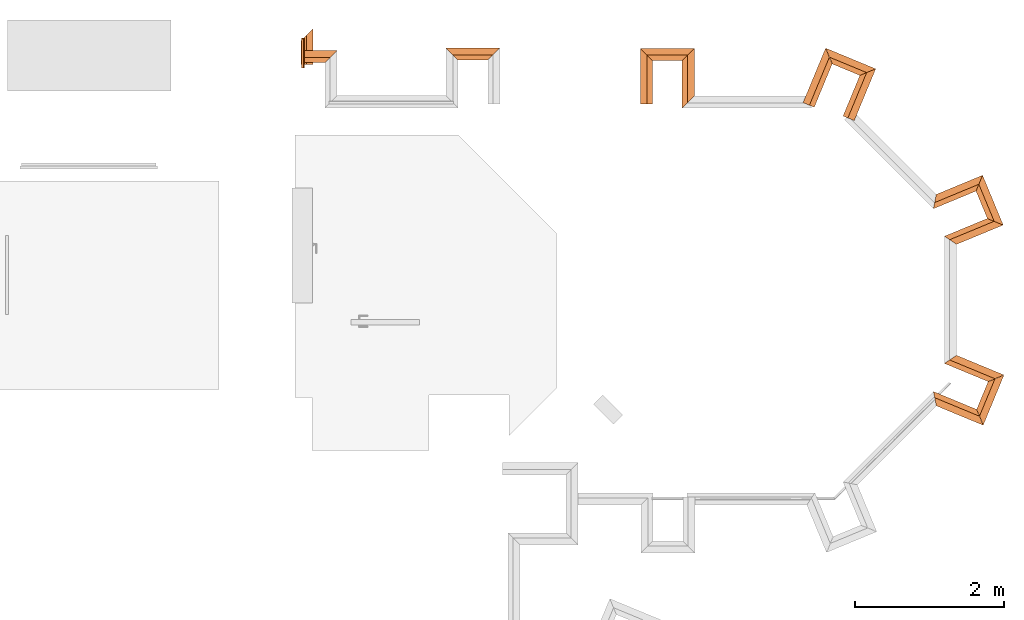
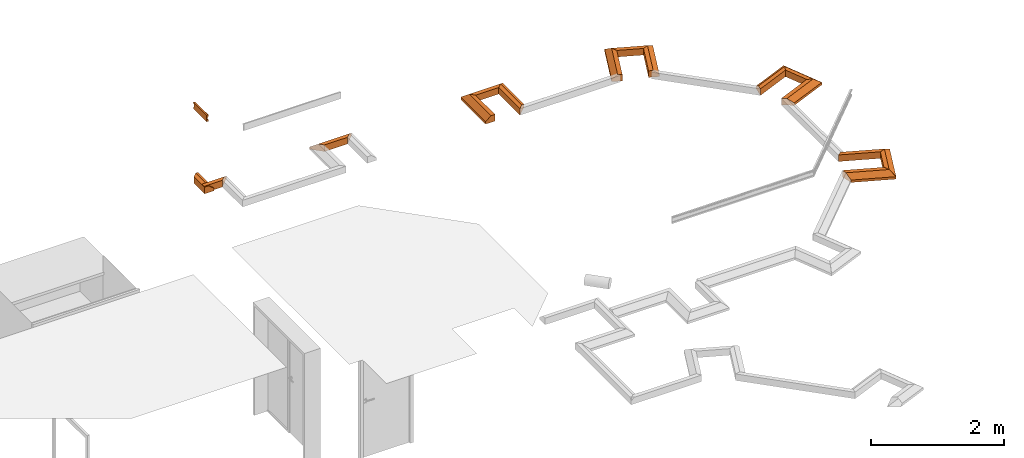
# One storey, part 9 of 9: 16 proxies.
"""IFC2X3 building model written with IfcOpenShell, lengths in metres."""

from ifc_helpers import new_model, entity, si_unit, converted_unit, derived_unit, direction, frame, origin, place, context, subcontext, project, spatial, faceted_brep, type_object, element, save


model = new_model("IFC2X3")

# Units and contexts
model_context = context("Model", 3, precision=1e-05, world=origin(), true_north=direction((6.12303176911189e-17, 1.0)))
plan_context = context("Plan", 3, precision=1e-05, world=origin(), true_north=direction((6.12303176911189e-17, 1.0)))
body_context = subcontext(model_context, "Body", "Model", "MODEL_VIEW")
ifc_project = project(units=[si_unit("LENGTHUNIT", "METRE"), si_unit("AREAUNIT", "SQUARE_METRE"), si_unit("VOLUMEUNIT", "CUBIC_METRE"), converted_unit("PLANEANGLEUNIT", "DEGREE", entity("IfcRatioMeasure", 0.0174532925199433), si_unit("PLANEANGLEUNIT", "RADIAN"), dimensions=[0, 0, 0, 0, 0, 0, 0]), si_unit("MASSUNIT", "GRAM", prefix="KILO"), derived_unit("MASSDENSITYUNIT", [(si_unit("MASSUNIT", "GRAM", prefix="KILO"), 1), (si_unit("LENGTHUNIT", "METRE"), -3)]), derived_unit("MOMENTOFINERTIAUNIT", [(si_unit("LENGTHUNIT", "METRE"), 4)]), si_unit("TIMEUNIT", "SECOND"), si_unit("FREQUENCYUNIT", "HERTZ"), si_unit("THERMODYNAMICTEMPERATUREUNIT", "DEGREE_CELSIUS"), derived_unit("THERMALTRANSMITTANCEUNIT", [(si_unit("MASSUNIT", "GRAM", prefix="KILO"), 1), (si_unit("THERMODYNAMICTEMPERATUREUNIT", "KELVIN"), -1), (si_unit("TIMEUNIT", "SECOND"), -3)]), derived_unit("VOLUMETRICFLOWRATEUNIT", [(si_unit("LENGTHUNIT", "METRE"), 3), (si_unit("TIMEUNIT", "SECOND"), -1)]), derived_unit("MASSFLOWRATEUNIT", [(si_unit("MASSUNIT", "GRAM", prefix="KILO"), 1), (si_unit("TIMEUNIT", "SECOND"), -1)]), derived_unit("ROTATIONALFREQUENCYUNIT", [(si_unit("TIMEUNIT", "SECOND"), -1)]), si_unit("ELECTRICCURRENTUNIT", "AMPERE"), si_unit("ELECTRICVOLTAGEUNIT", "VOLT"), si_unit("POWERUNIT", "WATT"), si_unit("FORCEUNIT", "NEWTON", prefix="KILO"), si_unit("ILLUMINANCEUNIT", "LUX"), si_unit("LUMINOUSFLUXUNIT", "LUMEN"), si_unit("LUMINOUSINTENSITYUNIT", "CANDELA"), derived_unit("USERDEFINED", [(si_unit("MASSUNIT", "GRAM", prefix="KILO"), -1), (si_unit("LENGTHUNIT", "METRE"), -2), (si_unit("TIMEUNIT", "SECOND"), 3), (si_unit("LUMINOUSFLUXUNIT", "LUMEN"), 1)]), derived_unit("SOUNDPOWERUNIT", [(si_unit("MASSUNIT", "GRAM", prefix="KILO"), 1), (si_unit("LENGTHUNIT", "METRE"), 2), (si_unit("TIMEUNIT", "SECOND"), -3)]), derived_unit("SOUNDPRESSUREUNIT", [(si_unit("MASSUNIT", "GRAM", prefix="KILO"), 1), (si_unit("LENGTHUNIT", "METRE"), -1), (si_unit("TIMEUNIT", "SECOND"), -2)]), derived_unit("LINEARVELOCITYUNIT", [(si_unit("LENGTHUNIT", "METRE"), 1), (si_unit("TIMEUNIT", "SECOND"), -1)]), si_unit("PRESSUREUNIT", "PASCAL"), derived_unit("USERDEFINED", [(si_unit("LENGTHUNIT", "METRE"), -2), (si_unit("MASSUNIT", "GRAM", prefix="KILO"), 1), (si_unit("TIMEUNIT", "SECOND"), -2)]), derived_unit("LINEARFORCEUNIT", [(si_unit("MASSUNIT", "GRAM", prefix="KILO"), 1), (si_unit("LENGTHUNIT", "METRE"), 1), (si_unit("TIMEUNIT", "SECOND"), -2), (si_unit("LENGTHUNIT", "METRE"), -1)]), derived_unit("PLANARFORCEUNIT", [(si_unit("MASSUNIT", "GRAM", prefix="KILO"), 1), (si_unit("LENGTHUNIT", "METRE"), 1), (si_unit("TIMEUNIT", "SECOND"), -2), (si_unit("LENGTHUNIT", "METRE"), -2)])], contexts=[model_context, plan_context])

# Site, building, storey
site_placement = place(None, frame((-11.0823275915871, 23.8300534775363, 0.0)))
site = spatial("IfcSite", under=ifc_project, at=site_placement, Name="Default", CompositionType="ELEMENT")
building_placement = place(site_placement, origin())
building = spatial("IfcBuilding", under=site, at=building_placement, Name="Englische Kirche", CompositionType="ELEMENT")
storey_placement = place(building_placement, frame((0.0, 0.0, -3.07499999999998)))
storey = spatial("IfcBuildingStorey", under=building, at=storey_placement, Name="Ebene -1 Basement Phase 6", CompositionType="ELEMENT", Elevation=-3.07499999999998)

# Proxies
building_element_proxy_type_1 = type_object("IfcBuildingElementProxyType", Name="Profilierte Wand:plinth", PredefinedType="NOTDEFINED")
proxy_1_placement = place(storey_placement, frame((17.9534573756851, 15.7736618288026, 2.97999999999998)))
element("IfcBuildingElementProxy", 1, at=proxy_1_placement, inside=storey, type_object=building_element_proxy_type_1, Name="Profilierte Wand:plinth", ObjectType="Profilierte Wand:plinth", context=body_context, shape_type="Brep", body=[
    faceted_brep([(0.0, 0.0, 0.12), (0.0, 0.0, 0.0), (0.16266972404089, 0.0, 0.0), (0.16266972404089, 0.0, 0.0450000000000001), (0.0697725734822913, 0.0, 0.12), (0.0, 0.320057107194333, 0.12), (0.0697725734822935, 0.389829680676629, 0.12), (0.16266972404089, 0.482726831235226, 0.0450000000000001), (0.16266972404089, 0.482726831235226, 0.0), (0.0, 0.320057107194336, 0.0)], [[[0, 1, 2, 3, 4]], [[5, 6, 7, 8, 9]], [[1, 0, 5, 9]], [[2, 1, 9, 8]], [[3, 2, 8, 7]], [[4, 3, 7, 6]], [[0, 4, 6, 5]]]),
])
building_element_proxy_type_2 = type_object("IfcBuildingElementProxyType", Name="Profilierte Wand:plinth brick header", PredefinedType="NOTDEFINED")
proxy_2_placement = place(storey_placement, frame((26.4589898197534, 10.920447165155, 2.97999999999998)))
element("IfcBuildingElementProxy", 2, at=proxy_2_placement, inside=storey, type_object=building_element_proxy_type_2, Name="Profilierte Wand:plinth brick header", ObjectType="Profilierte Wand:plinth brick header", context=body_context, shape_type="Brep", body=[
    faceted_brep([(0.0, 0.452986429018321, 0.12), (0.0, 0.452986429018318, 0.0), (0.0381677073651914, 0.261104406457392, 0.0), (0.0381677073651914, 0.261104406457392, 0.0450000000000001), (0.016370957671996, 0.37068406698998, 0.12), (0.580493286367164, 0.21253823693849, 0.12), (0.61825393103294, 0.12137597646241, 0.12), (0.668529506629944, 0.0, 0.0450000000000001), (0.668529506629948, 0.0, 0.0), (0.580493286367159, 0.212538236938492, 0.0)], [[[0, 1, 2, 3, 4]], [[5, 6, 7, 8, 9]], [[1, 0, 5, 9]], [[2, 1, 9, 8]], [[3, 2, 8, 7]], [[4, 3, 7, 6]], [[0, 4, 6, 5]]]),
])
building_element_proxy_type_3 = type_object("IfcBuildingElementProxyType", Name="Profilierte Wand:plinth brick header", PredefinedType="NOTDEFINED")
proxy_3_placement = place(storey_placement, frame((27.040437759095, 10.9227519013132, 2.97999999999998)))
element("IfcBuildingElementProxy", 3, at=proxy_3_placement, inside=storey, type_object=building_element_proxy_type_3, Name="Profilierte Wand:plinth brick header", ObjectType="Profilierte Wand:plinth brick header", context=body_context, shape_type="Brep", body=[
    faceted_brep([(0.0, 0.212538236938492, 0.12), (0.0, 0.212538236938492, 0.0), (0.0880362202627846, 0.0, 0.0), (0.0880362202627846, 0.0, 0.0450000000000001), (0.0377606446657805, 0.121375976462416, 0.12), (0.153456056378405, 0.583013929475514, 0.12), (0.244618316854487, 0.620774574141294, 0.12), (0.365994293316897, 0.671050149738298, 0.0450000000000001), (0.365994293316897, 0.671050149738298, 0.0), (0.153456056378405, 0.583013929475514, 0.0)], [[[0, 1, 2, 3, 4]], [[5, 6, 7, 8, 9]], [[1, 0, 5, 9]], [[2, 1, 9, 8]], [[3, 2, 8, 7]], [[4, 3, 7, 6]], [[0, 4, 6, 5]]]),
])
building_element_proxy_type_4 = type_object("IfcBuildingElementProxyType", Name="Profilierte Wand:plinth brick header", PredefinedType="NOTDEFINED")
proxy_4_placement = place(storey_placement, frame((26.6062268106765, 11.5080797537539, 2.97999999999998)))
element("IfcBuildingElementProxy", 4, at=proxy_4_placement, inside=storey, type_object=building_element_proxy_type_4, Name="Profilierte Wand:plinth brick header", ObjectType="Profilierte Wand:plinth brick header", context=body_context, shape_type="Brep", body=[
    faceted_brep([(0.588625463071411, 0.0, 0.12), (0.588625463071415, 0.0, 0.0), (0.801163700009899, 0.0880362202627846, 0.0), (0.801163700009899, 0.0880362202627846, 0.0450000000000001), (0.679787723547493, 0.0377606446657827, 0.12), (0.0, 0.243816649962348, 0.12), (0.0697725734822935, 0.29043719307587, 0.12), (0.16266972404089, 0.352509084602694, 0.0450000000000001), (0.16266972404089, 0.352509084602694, 0.0), (0.0, 0.243816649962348, 0.0)], [[[0, 1, 2, 3, 4]], [[5, 6, 7, 8, 9]], [[1, 0, 5, 9]], [[2, 1, 9, 8]], [[3, 2, 8, 7]], [[4, 3, 7, 6]], [[0, 4, 6, 5]]]),
])
building_element_proxy_type_5 = type_object("IfcBuildingElementProxyType", Name="Profilierte Wand:plinth brick header", PredefinedType="NOTDEFINED")
proxy_5_placement = place(storey_placement, frame((26.6062268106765, 13.353415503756, 2.97999999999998)))
element("IfcBuildingElementProxy", 5, at=proxy_5_placement, inside=storey, type_object=building_element_proxy_type_5, Name="Profilierte Wand:plinth brick header", ObjectType="Profilierte Wand:plinth brick header", context=body_context, shape_type="Brep", body=[
    faceted_brep([(0.0, 0.108692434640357, 0.12), (0.0, 0.108692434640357, 0.0), (0.162669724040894, 0.0, 0.0), (0.162669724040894, 0.0, 0.0450000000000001), (0.0697725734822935, 0.0620718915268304, 0.12), (0.577809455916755, 0.34802894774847, 0.12), (0.668971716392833, 0.310268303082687, 0.12), (0.790347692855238, 0.259992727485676, 0.0450000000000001), (0.790347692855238, 0.259992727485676, 0.0), (0.577809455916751, 0.348028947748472, 0.0)], [[[0, 1, 2, 3, 4]], [[5, 6, 7, 8, 9]], [[1, 0, 5, 9]], [[2, 1, 9, 8]], [[3, 2, 8, 7]], [[4, 3, 7, 6]], [[0, 4, 6, 5]]]),
])
building_element_proxy_type_6 = type_object("IfcBuildingElementProxyType", Name="Profilierte Wand:plinth brick header", PredefinedType="NOTDEFINED")
proxy_6_placement = place(storey_placement, frame((26.4574032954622, 13.8327152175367, 2.97999999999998)))
element("IfcBuildingElementProxy", 6, at=proxy_6_placement, inside=storey, type_object=building_element_proxy_type_6, Name="Profilierte Wand:plinth brick header", ObjectType="Profilierte Wand:plinth brick header", context=body_context, shape_type="Brep", body=[
    faceted_brep([(0.57380881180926, 0.237679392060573, 0.12), (0.57380881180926, 0.237679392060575, 0.0), (0.661845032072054, 0.450217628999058, 0.0), (0.661845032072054, 0.450217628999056, 0.0450000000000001), (0.611569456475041, 0.328841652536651, 0.12), (0.0, 0.0, 0.12), (0.016370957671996, 0.0823023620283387, 0.12), (0.0381677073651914, 0.191882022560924, 0.0450000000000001), (0.0381677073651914, 0.191882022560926, 0.0), (0.0, 0.0, 0.0)], [[[0, 1, 2, 3, 4]], [[5, 6, 7, 8, 9]], [[1, 0, 5, 9]], [[2, 1, 9, 8]], [[3, 2, 8, 7]], [[4, 3, 7, 6]], [[0, 4, 6, 5]]]),
])
building_element_proxy_type_7 = type_object("IfcBuildingElementProxyType", Name="Profilierte Wand:plinth brick header", PredefinedType="NOTDEFINED")
proxy_7_placement = place(storey_placement, frame((25.2429497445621, 15.0179337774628, 2.97999999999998)))
element("IfcBuildingElementProxy", 7, at=proxy_7_placement, inside=storey, type_object=building_element_proxy_type_7, Name="Profilierte Wand:plinth brick header", ObjectType="Profilierte Wand:plinth brick header", context=body_context, shape_type="Brep", body=[
    faceted_brep([(0.0, 0.0622510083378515, 0.12), (0.0, 0.0622510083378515, 0.0), (0.150287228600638, 0.0, 0.0), (0.150287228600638, 0.0, 0.0450000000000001), (0.0644614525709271, 0.0355502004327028, 0.12), (0.226095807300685, 0.608094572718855, 0.12), (0.317258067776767, 0.64585521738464, 0.12), (0.438634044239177, 0.696130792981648, 0.0450000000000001), (0.438634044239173, 0.696130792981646, 0.0), (0.226095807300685, 0.608094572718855, 0.0)], [[[0, 1, 2, 3, 4]], [[5, 6, 7, 8, 9]], [[1, 0, 5, 9]], [[2, 1, 9, 8]], [[3, 2, 8, 7]], [[4, 3, 7, 6]], [[0, 4, 6, 5]]]),
])
building_element_proxy_type_8 = type_object("IfcBuildingElementProxyType", Name="Profilierte Wand:plinth brick header", PredefinedType="NOTDEFINED")
proxy_8_placement = place(storey_placement, frame((25.0105336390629, 15.6260283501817, 2.97999999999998)))
element("IfcBuildingElementProxy", 8, at=proxy_8_placement, inside=storey, type_object=building_element_proxy_type_8, Name="Profilierte Wand:plinth brick header", ObjectType="Profilierte Wand:plinth brick header", context=body_context, shape_type="Brep", body=[
    faceted_brep([(0.458511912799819, 0.0, 0.12), (0.458511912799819, 0.0, 0.0), (0.671050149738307, 0.0880362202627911, 0.0), (0.671050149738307, 0.0880362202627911, 0.0450000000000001), (0.549674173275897, 0.0377606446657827, 0.12), (0.0880362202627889, 0.153456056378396, 0.12), (0.0502755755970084, 0.244618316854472, 0.12), (0.0, 0.365994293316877, 0.0450000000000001), (0.0, 0.365994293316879, 0.0), (0.0880362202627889, 0.153456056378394, 0.0)], [[[0, 1, 2, 3, 4]], [[5, 6, 7, 8, 9]], [[1, 0, 5, 9]], [[2, 1, 9, 8]], [[3, 2, 8, 7]], [[4, 3, 7, 6]], [[0, 4, 6, 5]]]),
])
building_element_proxy_type_9 = type_object("IfcBuildingElementProxyType", Name="Profilierte Wand:plinth brick header", PredefinedType="NOTDEFINED")
proxy_9_placement = place(storey_placement, frame((24.7046517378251, 15.1978402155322, 2.97999999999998)))
element("IfcBuildingElementProxy", 9, at=proxy_9_placement, inside=storey, type_object=building_element_proxy_type_9, Name="Profilierte Wand:plinth brick header", ObjectType="Profilierte Wand:plinth brick header", context=body_context, shape_type="Brep", body=[
    faceted_brep([(0.391608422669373, 0.58260089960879, 0.12), (0.391608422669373, 0.58260089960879, 0.0), (0.303572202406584, 0.795139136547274, 0.0), (0.303572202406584, 0.795139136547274, 0.0450000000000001), (0.353847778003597, 0.673763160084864, 0.12), (0.150287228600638, 0.0, 0.12), (0.0858257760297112, 0.0267008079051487, 0.12), (0.0, 0.0622510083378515, 0.0450000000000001), (0.0, 0.0622510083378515, 0.0), (0.150287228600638, 0.0, 0.0)], [[[0, 1, 2, 3, 4]], [[5, 6, 7, 8, 9]], [[1, 0, 5, 9]], [[2, 1, 9, 8]], [[3, 2, 8, 7]], [[4, 3, 7, 6]], [[0, 4, 6, 5]]]),
])
building_element_proxy_type_10 = type_object("IfcBuildingElementProxyType", Name="Profilierte Wand:moulding1-Dado", PredefinedType="NOTDEFINED")
proxy_10_placement = place(storey_placement, frame((17.9604573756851, 15.7237189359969, 4.32499999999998)))
element("IfcBuildingElementProxy", 10, at=proxy_10_placement, inside=storey, type_object=building_element_proxy_type_10, Name="Profilierte Wand:moulding1-Dado", ObjectType="Profilierte Wand:moulding1-Dado", context=body_context, shape_type="Brep", body=[
    faceted_brep([(0.0299999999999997, 0.0, 0.0), (0.0299999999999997, 0.0, 0.0250000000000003), (0.0150000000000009, 0.0, 0.0250000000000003), (0.0190643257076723, 0.0, 0.0900292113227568), (0.0227450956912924, 0.0, 0.0902533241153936), (0.0262599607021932, 0.0, 0.0913686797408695), (0.0293964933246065, 0.0, 0.0933078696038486), (0.031965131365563, 0.0, 0.0959536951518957), (0.0338106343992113, 0.0, 0.0991462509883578), (0.0348214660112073, 0.0, 0.102692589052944), (0.0349365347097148, 0.0, 0.106378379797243), (0.0341488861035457, 0.0, 0.109980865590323), (0.0325061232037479, 0.0, 0.113282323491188), (0.0301075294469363, 0.0, 0.11608322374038), (0.0270980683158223, 0.0, 0.11821428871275), (0.0236596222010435, 0.0, 0.119546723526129), (0.0199999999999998, 0.0, 0.12), (0.0, 0.0, 0.12), (0.0, 0.0, 0.0), (0.0, 0.370000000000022, 0.12), (0.0, 0.390000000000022, 0.12), (0.0, 0.393659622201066, 0.119546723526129), (0.0, 0.397098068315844, 0.11821428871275), (0.0, 0.400107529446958, 0.11608322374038), (0.0, 0.40250612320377, 0.113282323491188), (0.0, 0.404148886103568, 0.109980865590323), (0.0, 0.404936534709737, 0.106378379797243), (0.0, 0.404821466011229, 0.102692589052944), (0.0, 0.403810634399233, 0.0991462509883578), (0.0, 0.401965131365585, 0.0959536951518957), (0.0, 0.399396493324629, 0.0933078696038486), (0.0, 0.396259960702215, 0.0913686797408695), (0.0, 0.392745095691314, 0.0902533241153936), (0.0, 0.389064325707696, 0.0900292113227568), (0.0, 0.385000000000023, 0.0250000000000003), (0.0, 0.400000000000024, 0.0250000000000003), (0.0, 0.400000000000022, 0.0), (0.0, 0.370000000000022, 0.0), (0.0300000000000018, 0.400000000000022, 0.0), (0.0300000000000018, 0.400000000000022, 0.0249999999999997), (0.0150000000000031, 0.385000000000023, 0.0249999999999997), (0.0190643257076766, 0.389064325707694, 0.0900292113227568), (0.0190643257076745, 0.194532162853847, 0.0900292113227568), (0.0227450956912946, 0.392745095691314, 0.0902533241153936), (0.0246001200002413, 0.198129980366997, 0.0907227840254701), (0.0218539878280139, 0.243952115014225, 0.0901150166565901), (0.0236596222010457, 0.393659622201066, 0.119546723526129), (0.0226370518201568, 0.202849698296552, 0.119766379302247), (0.0254199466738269, 0.175139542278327, 0.118986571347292), (0.0199999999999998, 0.135233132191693, 0.12), (0.0262599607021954, 0.396259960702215, 0.0913686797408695), (0.0319651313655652, 0.401965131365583, 0.0959536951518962), (0.0338106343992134, 0.403810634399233, 0.0991462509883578), (0.0330041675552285, 0.201905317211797, 0.0975239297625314), (0.0279319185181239, 0.226537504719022, 0.0922687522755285), (0.030762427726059, 0.17424001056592, 0.0945515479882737), (0.0334434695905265, 0.20207444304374, 0.111653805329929), (0.0325061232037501, 0.40250612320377, 0.113282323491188), (0.0314188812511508, 0.229946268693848, 0.114726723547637), (0.0287153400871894, 0.200053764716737, 0.117208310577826), (0.020000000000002, 0.270466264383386, 0.12), (0.0344300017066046, 0.232823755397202, 0.10090426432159), (0.0348214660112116, 0.404821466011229, 0.102692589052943), (0.0349365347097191, 0.404936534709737, 0.106378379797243), (0.0349926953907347, 0.202410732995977, 0.10453193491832), (0.0346538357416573, 0.170789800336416, 0.108203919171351), (0.0301075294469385, 0.400107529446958, 0.11608322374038), (0.0341488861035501, 0.404148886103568, 0.109980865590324), (0.0270980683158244, 0.397098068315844, 0.11821428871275), (0.020000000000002, 0.390000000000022, 0.12), (0.0293964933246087, 0.399396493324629, 0.0933078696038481)], [[[0, 1, 2, 3, 4, 5, 6, 7, 8, 9, 10, 11, 12, 13, 14, 15, 16, 17, 18]], [[18, 17, 19, 20, 21, 22, 23, 24, 25, 26, 27, 28, 29, 30, 31, 32, 33, 34, 35, 36, 37]], [[0, 18, 37, 36, 38]], [[1, 0, 38, 39]], [[2, 1, 39, 35, 34, 40]], [[3, 2, 40, 41, 42]], [[43, 44, 45]], [[46, 47, 48]], [[15, 47, 49]], [[50, 44, 43]], [[51, 52, 53]], [[6, 54, 55]], [[51, 53, 55]], [[56, 57, 58]], [[50, 54, 44]], [[58, 59, 13]], [[47, 46, 60]], [[52, 61, 53]], [[42, 4, 3]], [[43, 45, 41]], [[7, 53, 8]], [[52, 62, 61]], [[63, 64, 62]], [[5, 44, 54]], [[11, 10, 65]], [[7, 55, 53]], [[7, 6, 55]], [[66, 59, 58]], [[8, 53, 61]], [[9, 8, 61]], [[64, 10, 9]], [[4, 45, 44]], [[67, 65, 63]], [[63, 65, 64]], [[10, 64, 65]], [[57, 56, 67]], [[59, 66, 68]], [[62, 64, 61]], [[6, 5, 54]], [[68, 48, 59]], [[47, 15, 48]], [[58, 57, 66]], [[9, 61, 64]], [[69, 60, 46]], [[49, 16, 15]], [[65, 56, 11]], [[12, 11, 56]], [[46, 48, 68]], [[4, 44, 5]], [[56, 58, 12]], [[51, 55, 70]], [[14, 13, 59]], [[47, 60, 49]], [[14, 59, 48]], [[15, 14, 48]], [[13, 12, 58]], [[42, 45, 4]], [[67, 56, 65]], [[70, 55, 54]], [[50, 70, 54]], [[41, 45, 42]], [[17, 16, 49, 60, 69, 20, 19]], [[39, 38, 36, 35]], [[41, 40, 34, 33]], [[41, 33, 32, 43]], [[31, 50, 43, 32]], [[29, 28, 52, 51]], [[70, 30, 29, 51]], [[50, 31, 30, 70]], [[52, 28, 27, 62]], [[27, 26, 63, 62]], [[67, 63, 26, 25]], [[24, 57, 67, 25]], [[22, 21, 46, 68]], [[68, 66, 23, 22]], [[66, 57, 24, 23]], [[69, 46, 21, 20]]]),
])
building_element_proxy_type_11 = type_object("IfcBuildingElementProxyType", Name="Profilierte Wand:plinth brick header", PredefinedType="NOTDEFINED")
proxy_11_placement = place(storey_placement, frame((27.0312121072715, 13.6119144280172, 2.97999999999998)))
element("IfcBuildingElementProxy", 11, at=proxy_11_placement, inside=storey, type_object=building_element_proxy_type_11, Name="Profilierte Wand:plinth brick header", ObjectType="Profilierte Wand:plinth brick header", context=body_context, shape_type="Brep", body=[
    faceted_brep([(0.153442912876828, 0.0880362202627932, 0.12), (0.15344291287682, 0.0880362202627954, 0.0), (0.365981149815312, 0.0, 0.0), (0.365981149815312, 0.0, 0.0449999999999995), (0.244605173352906, 0.0502755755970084, 0.119999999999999), (0.0, 0.458480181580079, 0.12), (0.0377606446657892, 0.549642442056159, 0.119999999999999), (0.0880362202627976, 0.671018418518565, 0.0449999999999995), (0.0880362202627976, 0.671018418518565, 0.0), (0.0, 0.458480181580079, 0.0)], [[[0, 1, 2, 3, 4]], [[5, 6, 7, 8, 9]], [[1, 0, 5, 9]], [[2, 1, 9, 8]], [[3, 2, 8, 7]], [[4, 3, 7, 6]], [[0, 4, 6, 5]]]),
])
building_element_proxy_type_12 = type_object("IfcBuildingElementProxyType", Name="Profilierte Wand:plinth brick header", PredefinedType="NOTDEFINED")
proxy_12_placement = place(storey_placement, frame((17.9604573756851, 15.797218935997, 2.97999999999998)))
element("IfcBuildingElementProxy", 12, at=proxy_12_placement, inside=storey, type_object=building_element_proxy_type_12, Name="Profilierte Wand:plinth brick header", ObjectType="Profilierte Wand:plinth brick header", context=body_context, shape_type="Brep", body=[
    faceted_brep([(0.312999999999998, 0.0, 0.12), (0.312999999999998, 0.0, 0.0), (0.475669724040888, 0.16266972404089, 0.0), (0.475669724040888, 0.16266972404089, 0.0450000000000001), (0.382772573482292, 0.0697725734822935, 0.12), (0.0, 0.0, 0.12), (0.0, 0.0697725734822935, 0.12), (0.0, 0.16266972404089, 0.0450000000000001), (0.0, 0.16266972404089, 0.0), (0.0, 0.0, 0.0)], [[[0, 1, 2, 3, 4]], [[5, 6, 7, 8, 9]], [[1, 0, 5, 9]], [[2, 1, 9, 8]], [[3, 2, 8, 7]], [[4, 3, 7, 6]], [[0, 4, 6, 5]]]),
])
building_element_proxy_type_13 = type_object("IfcBuildingElementProxyType", Name="Profilierte Wand:plinth brick header", PredefinedType="NOTDEFINED")
proxy_13_placement = place(storey_placement, frame((19.9000376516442, 15.8327189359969, 2.97999999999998)))
element("IfcBuildingElementProxy", 13, at=proxy_13_placement, inside=storey, type_object=building_element_proxy_type_13, Name="Profilierte Wand:plinth brick header", ObjectType="Profilierte Wand:plinth brick header", context=body_context, shape_type="Brep", body=[
    faceted_brep([(0.563669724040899, 0.0, 0.119999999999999), (0.563669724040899, 0.0, 0.0), (0.726339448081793, 0.162669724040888, 0.0), (0.726339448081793, 0.162669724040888, 0.0449999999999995), (0.633442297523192, 0.0697725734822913, 0.119999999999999), (0.162669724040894, 0.0, 0.119999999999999), (0.092897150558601, 0.0697725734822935, 0.119999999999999), (0.0, 0.16266972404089, 0.0449999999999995), (0.0, 0.16266972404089, 0.0), (0.162669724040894, 0.0, 0.0)], [[[0, 1, 2, 3, 4]], [[5, 6, 7, 8, 9]], [[1, 0, 5, 9]], [[2, 1, 9, 8]], [[3, 2, 8, 7]], [[4, 3, 7, 6]], [[0, 4, 6, 5]]]),
])
building_element_proxy_type_14 = type_object("IfcBuildingElementProxyType", Name="Profilierte Wand:plinth brick header", PredefinedType="NOTDEFINED")
proxy_14_placement = place(storey_placement, frame((22.5147849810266, 15.8277189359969, 2.97999999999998)))
element("IfcBuildingElementProxy", 14, at=proxy_14_placement, inside=storey, type_object=building_element_proxy_type_14, Name="Profilierte Wand:plinth brick header", ObjectType="Profilierte Wand:plinth brick header", context=body_context, shape_type="Brep", body=[
    faceted_brep([(0.56366972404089, 0.0, 0.119999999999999), (0.56366972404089, 0.0, 0.0), (0.726339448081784, 0.16266972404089, 0.0), (0.726339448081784, 0.16266972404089, 0.0449999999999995), (0.633442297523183, 0.0697725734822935, 0.119999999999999), (0.16266972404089, 0.0, 0.119999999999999), (0.0928971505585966, 0.0697725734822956, 0.119999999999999), (0.0, 0.162669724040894, 0.0449999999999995), (0.0, 0.162669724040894, 0.0), (0.16266972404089, 0.0, 0.0)], [[[0, 1, 2, 3, 4]], [[5, 6, 7, 8, 9]], [[1, 0, 5, 9]], [[2, 1, 9, 8]], [[3, 2, 8, 7]], [[4, 3, 7, 6]], [[0, 4, 6, 5]]]),
])
building_element_proxy_type_15 = type_object("IfcBuildingElementProxyType", Name="Profilierte Wand:plinth brick header", PredefinedType="NOTDEFINED")
proxy_15_placement = place(storey_placement, frame((22.5147849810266, 15.2447189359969, 2.97999999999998)))
element("IfcBuildingElementProxy", 15, at=proxy_15_placement, inside=storey, type_object=building_element_proxy_type_15, Name="Profilierte Wand:plinth brick header", ObjectType="Profilierte Wand:plinth brick header", context=body_context, shape_type="Brep", body=[
    faceted_brep([(0.162669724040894, 0.582999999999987, 0.12), (0.162669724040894, 0.582999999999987, 0.0), (0.0, 0.745669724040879, 0.0), (0.0, 0.745669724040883, 0.0450000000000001), (0.0928971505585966, 0.652772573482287, 0.12), (0.16266972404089, 0.0, 0.12), (0.092897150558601, 0.0, 0.12), (0.0, 0.0, 0.0450000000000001), (0.0, 0.0, 0.0), (0.162669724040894, 0.0, 0.0)], [[[0, 1, 2, 3, 4]], [[5, 6, 7, 8, 9]], [[1, 0, 5, 9]], [[2, 1, 9, 8]], [[3, 2, 8, 7]], [[4, 3, 7, 6]], [[0, 4, 6, 5]]]),
])
building_element_proxy_type_16 = type_object("IfcBuildingElementProxyType", Name="Profilierte Wand:plinth brick header", PredefinedType="NOTDEFINED")
proxy_16_placement = place(storey_placement, frame((23.0784547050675, 15.1877189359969, 2.97999999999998)))
element("IfcBuildingElementProxy", 16, at=proxy_16_placement, inside=storey, type_object=building_element_proxy_type_16, Name="Profilierte Wand:plinth brick header", ObjectType="Profilierte Wand:plinth brick header", context=body_context, shape_type="Brep", body=[
    faceted_brep([(0.0, 0.0, 0.12), (0.0, 0.0, 0.0), (0.162669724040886, 0.162669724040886, 0.0), (0.16266972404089, 0.16266972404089, 0.0450000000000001), (0.0697725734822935, 0.0697725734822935, 0.12), (0.0, 0.639999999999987, 0.12), (0.0697725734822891, 0.709772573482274, 0.12), (0.162669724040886, 0.80266972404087, 0.0450000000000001), (0.162669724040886, 0.80266972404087, 0.0), (0.0, 0.639999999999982, 0.0)], [[[0, 1, 2, 3, 4]], [[5, 6, 7, 8, 9]], [[1, 0, 5, 9]], [[2, 1, 9, 8]], [[3, 2, 8, 7]], [[4, 3, 7, 6]], [[0, 4, 6, 5]]]),
])

save(model, "model.ifc")
